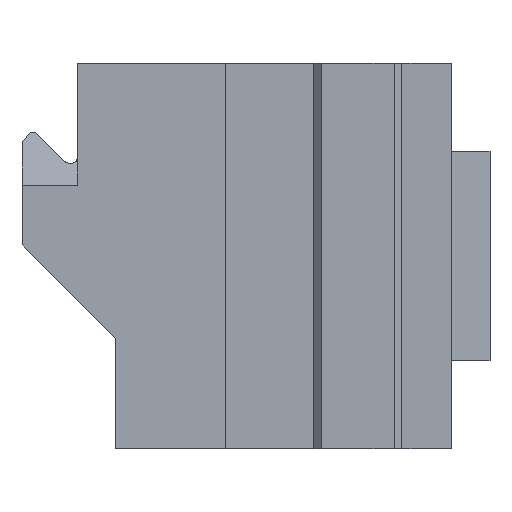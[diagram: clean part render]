
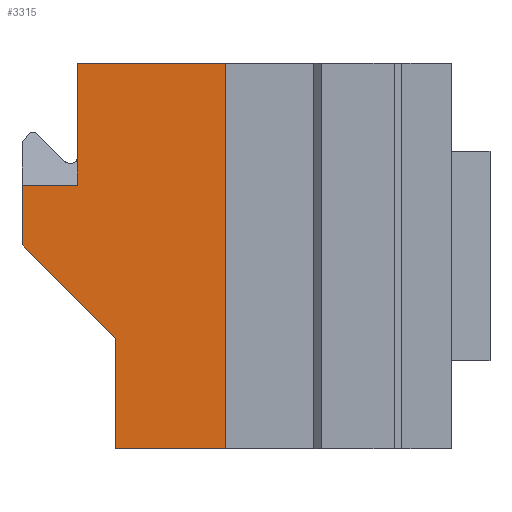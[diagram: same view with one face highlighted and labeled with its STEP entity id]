
A CAD part, left-side view. The second image highlights one B-rep face of the part: STEP entity #3315.
In plain terms, the highlighted planar face has unit normal (-1, 0, 0).
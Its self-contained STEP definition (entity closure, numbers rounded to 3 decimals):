
#75 = EDGE_CURVE ( 'NONE', #10399, #9505, #4920, .T. ) ;
#363 = EDGE_CURVE ( 'NONE', #14127, #12755, #5618, .T. ) ;
#469 = CARTESIAN_POINT ( 'NONE',  ( -26., 24., 17.5 ) ) ;
#733 = CARTESIAN_POINT ( 'NONE',  ( -26., 34., -7.5 ) ) ;
#902 = CARTESIAN_POINT ( 'NONE',  ( -26., 24., -17.5 ) ) ;
#1023 = ORIENTED_EDGE ( 'NONE', *, *, #3465, .T. ) ;
#1420 = CARTESIAN_POINT ( 'NONE',  ( -26., 37.5, 6.44 ) ) ;
#1988 = DIRECTION ( 'NONE',  ( 0., 0., -1. ) ) ;
#2123 = FACE_OUTER_BOUND ( 'NONE', #4824, .T. ) ;
#2389 = CARTESIAN_POINT ( 'NONE',  ( -26., 42.5, 1. ) ) ;
#3067 = LINE ( 'NONE', #7788, #14643 ) ;
#3248 = EDGE_CURVE ( 'NONE', #10826, #14127, #14723, .T. ) ;
#3315 = ADVANCED_FACE ( 'NONE', ( #2123 ), #6546, .T. ) ;
#3465 = EDGE_CURVE ( 'NONE', #10399, #8278, #6131, .T. ) ;
#3845 = CARTESIAN_POINT ( 'NONE',  ( -26., 24., -17.5 ) ) ;
#3870 = EDGE_CURVE ( 'NONE', #5705, #13223, #5109, .T. ) ;
#4026 = CARTESIAN_POINT ( 'NONE',  ( -26., 44., 2.5 ) ) ;
#4153 = CARTESIAN_POINT ( 'NONE',  ( -26., 42.5, -7.5 ) ) ;
#4339 = CARTESIAN_POINT ( 'NONE',  ( -26., 37.5, 17.5 ) ) ;
#4654 = VECTOR ( 'NONE', #6940, 1000. ) ;
#4824 = EDGE_LOOP ( 'NONE', ( #1023, #9362, #11927, #10691, #5245, #11118, #12714, #11026 ) ) ;
#4920 = LINE ( 'NONE', #9676, #15060 ) ;
#5076 = DIRECTION ( 'NONE',  ( 0., 0., 1. ) ) ;
#5109 = LINE ( 'NONE', #4026, #9157 ) ;
#5164 = VECTOR ( 'NONE', #10907, 1000. ) ;
#5231 = CARTESIAN_POINT ( 'NONE',  ( -26., 24., -17.5 ) ) ;
#5245 = ORIENTED_EDGE ( 'NONE', *, *, #3248, .T. ) ;
#5259 = CARTESIAN_POINT ( 'NONE',  ( -26., 34., -17.5 ) ) ;
#5405 = VECTOR ( 'NONE', #7605, 1000. ) ;
#5501 = EDGE_CURVE ( 'NONE', #9505, #12755, #8321, .T. ) ;
#5618 = LINE ( 'NONE', #902, #4654 ) ;
#5705 = VERTEX_POINT ( 'NONE', #2389 ) ;
#5996 = CARTESIAN_POINT ( 'NONE',  ( -26., 24., 17.5 ) ) ;
#6131 = LINE ( 'NONE', #1420, #5405 ) ;
#6176 = VECTOR ( 'NONE', #7378, 1000. ) ;
#6546 = PLANE ( 'NONE',  #8134 ) ;
#6940 = DIRECTION ( 'NONE',  ( 0., 0., 1. ) ) ;
#6965 = CARTESIAN_POINT ( 'NONE',  ( -26., 42.5, 6.44 ) ) ;
#7355 = EDGE_CURVE ( 'NONE', #13223, #10826, #3067, .T. ) ;
#7378 = DIRECTION ( 'NONE',  ( 0., -1., 0. ) ) ;
#7605 = DIRECTION ( 'NONE',  ( 0., 1., 0. ) ) ;
#7788 = CARTESIAN_POINT ( 'NONE',  ( -26., 34., -7.5 ) ) ;
#8016 = CARTESIAN_POINT ( 'NONE',  ( -26., 24., -17.5 ) ) ;
#8134 = AXIS2_PLACEMENT_3D ( 'NONE', #8016, #11599, #13700 ) ;
#8278 = VERTEX_POINT ( 'NONE', #6965 ) ;
#8321 = LINE ( 'NONE', #5996, #6176 ) ;
#9157 = VECTOR ( 'NONE', #9849, 1000. ) ;
#9362 = ORIENTED_EDGE ( 'NONE', *, *, #14225, .F. ) ;
#9505 = VERTEX_POINT ( 'NONE', #4339 ) ;
#9676 = CARTESIAN_POINT ( 'NONE',  ( -26., 37.5, 6.44 ) ) ;
#9849 = DIRECTION ( 'NONE',  ( 0., -0.707, -0.707 ) ) ;
#9987 = DIRECTION ( 'NONE',  ( 0., 0., 1. ) ) ;
#10216 = LINE ( 'NONE', #4153, #11129 ) ;
#10399 = VERTEX_POINT ( 'NONE', #14160 ) ;
#10691 = ORIENTED_EDGE ( 'NONE', *, *, #7355, .T. ) ;
#10826 = VERTEX_POINT ( 'NONE', #5259 ) ;
#10907 = DIRECTION ( 'NONE',  ( 0., -1., 0. ) ) ;
#11026 = ORIENTED_EDGE ( 'NONE', *, *, #75, .F. ) ;
#11118 = ORIENTED_EDGE ( 'NONE', *, *, #363, .T. ) ;
#11129 = VECTOR ( 'NONE', #9987, 1000. ) ;
#11599 = DIRECTION ( 'NONE',  ( -1., 0., 0. ) ) ;
#11927 = ORIENTED_EDGE ( 'NONE', *, *, #3870, .T. ) ;
#12714 = ORIENTED_EDGE ( 'NONE', *, *, #5501, .F. ) ;
#12755 = VERTEX_POINT ( 'NONE', #469 ) ;
#13223 = VERTEX_POINT ( 'NONE', #733 ) ;
#13700 = DIRECTION ( 'NONE',  ( 0., 0., 1. ) ) ;
#14127 = VERTEX_POINT ( 'NONE', #3845 ) ;
#14160 = CARTESIAN_POINT ( 'NONE',  ( -26., 37.5, 6.44 ) ) ;
#14225 = EDGE_CURVE ( 'NONE', #5705, #8278, #10216, .T. ) ;
#14643 = VECTOR ( 'NONE', #1988, 1000. ) ;
#14723 = LINE ( 'NONE', #5231, #5164 ) ;
#15060 = VECTOR ( 'NONE', #5076, 1000. ) ;
